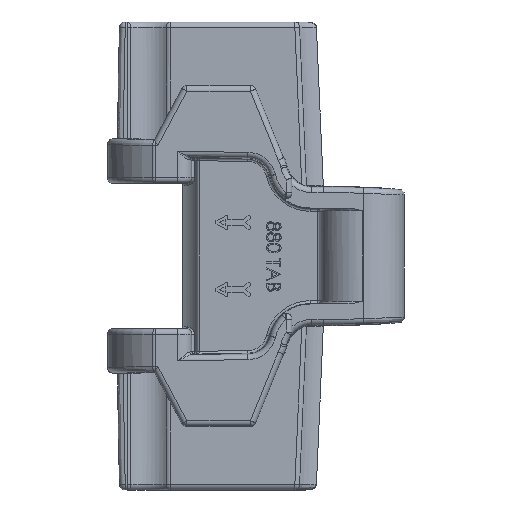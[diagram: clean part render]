
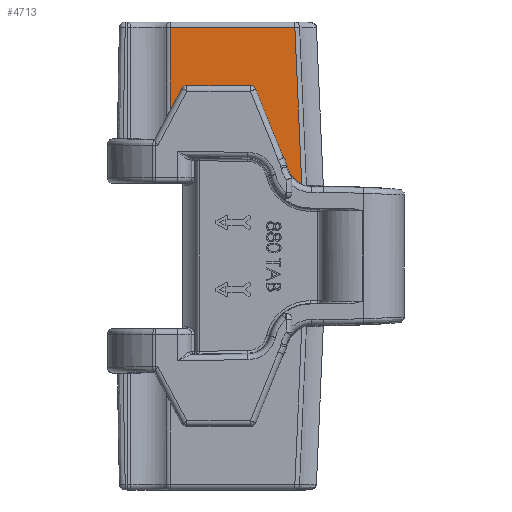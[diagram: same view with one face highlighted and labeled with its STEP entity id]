
A CAD part, front view. The second image highlights one B-rep face of the part: STEP entity #4713.
In plain terms, the highlighted planar face has unit normal (0, -1, 0).
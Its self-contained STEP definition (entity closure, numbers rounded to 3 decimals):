
#69 = CARTESIAN_POINT ( 'NONE',  ( -12.267, 3.4, 40.876 ) ) ;
#863 = VERTEX_POINT ( 'NONE', #8819 ) ;
#887 = ORIENTED_EDGE ( 'NONE', *, *, #8566, .F. ) ;
#1020 = CARTESIAN_POINT ( 'NONE',  ( -18.613, 3.4, 37.628 ) ) ;
#1027 = VERTEX_POINT ( 'NONE', #9303 ) ;
#1316 = EDGE_CURVE ( 'NONE', #863, #1027, #7761, .T. ) ;
#2173 = VERTEX_POINT ( 'NONE', #7226 ) ;
#2570 = VECTOR ( 'NONE', #10519, 1000. ) ;
#2763 = EDGE_CURVE ( 'NONE', #11217, #2173, #4846, .T. ) ;
#3523 = VECTOR ( 'NONE', #13413, 1000. ) ;
#3586 = EDGE_CURVE ( 'NONE', #16208, #16011, #10780, .T. ) ;
#4337 = EDGE_LOOP ( 'NONE', ( #13007, #9921, #15839, #887, #12365, #7055, #10659 ) ) ;
#4713 = ADVANCED_FACE ( 'NONE', ( #12367 ), #8072, .T. ) ;
#4846 = LINE ( 'NONE', #6102, #11545 ) ;
#4947 = CARTESIAN_POINT ( 'NONE',  ( 0., 3.4, 40.9 ) ) ;
#5372 = EDGE_CURVE ( 'NONE', #16011, #11380, #11955, .T. ) ;
#6102 = CARTESIAN_POINT ( 'NONE',  ( -0.297, 3.4, 20.393 ) ) ;
#6138 = AXIS2_PLACEMENT_3D ( 'NONE', #9535, #9452, #17623 ) ;
#6314 = CARTESIAN_POINT ( 'NONE',  ( -34.595, 3.4, 40.9 ) ) ;
#6460 = CIRCLE ( 'NONE', #10467, 4.5 ) ;
#6465 = DIRECTION ( 'NONE',  ( -1., 0., 0.014 ) ) ;
#6800 = AXIS2_PLACEMENT_3D ( 'NONE', #13538, #17506, #15064 ) ;
#7055 = ORIENTED_EDGE ( 'NONE', *, *, #17618, .F. ) ;
#7168 = CARTESIAN_POINT ( 'NONE',  ( -12.268, 3.4, 40.9 ) ) ;
#7226 = CARTESIAN_POINT ( 'NONE',  ( -34.595, 3.4, 20.867 ) ) ;
#7761 = LINE ( 'NONE', #1020, #3523 ) ;
#8072 = PLANE ( 'NONE',  #6800 ) ;
#8319 = CARTESIAN_POINT ( 'NONE',  ( -19.1, 3.4, 20.653 ) ) ;
#8453 = EDGE_CURVE ( 'NONE', #11380, #2173, #10262, .T. ) ;
#8566 = EDGE_CURVE ( 'NONE', #1027, #11217, #15035, .T. ) ;
#8800 = DIRECTION ( 'NONE',  ( 0., 1., 0. ) ) ;
#8819 = CARTESIAN_POINT ( 'NONE',  ( -13.636, 3.4, 15.943 ) ) ;
#9303 = CARTESIAN_POINT ( 'NONE',  ( -13.719, 3.4, 16.306 ) ) ;
#9427 = DIRECTION ( 'NONE',  ( -0.044, 0., 0.999 ) ) ;
#9452 = DIRECTION ( 'NONE',  ( 0., -1., 0. ) ) ;
#9535 = CARTESIAN_POINT ( 'NONE',  ( -19.177, 3.4, 15.054 ) ) ;
#9866 = VECTOR ( 'NONE', #11692, 1000. ) ;
#9921 = ORIENTED_EDGE ( 'NONE', *, *, #8453, .T. ) ;
#10262 = LINE ( 'NONE', #12958, #9866 ) ;
#10467 = AXIS2_PLACEMENT_3D ( 'NONE', #16972, #8800, #12916 ) ;
#10519 = DIRECTION ( 'NONE',  ( -1., 0., 0. ) ) ;
#10659 = ORIENTED_EDGE ( 'NONE', *, *, #3586, .T. ) ;
#10780 = LINE ( 'NONE', #69, #15506 ) ;
#11217 = VERTEX_POINT ( 'NONE', #8319 ) ;
#11380 = VERTEX_POINT ( 'NONE', #6314 ) ;
#11545 = VECTOR ( 'NONE', #6465, 1000. ) ;
#11692 = DIRECTION ( 'NONE',  ( 0., 0., -1. ) ) ;
#11955 = LINE ( 'NONE', #4947, #2570 ) ;
#12365 = ORIENTED_EDGE ( 'NONE', *, *, #1316, .F. ) ;
#12367 = FACE_OUTER_BOUND ( 'NONE', #4337, .T. ) ;
#12916 = DIRECTION ( 'NONE',  ( 1., 0., 0. ) ) ;
#12958 = CARTESIAN_POINT ( 'NONE',  ( -34.595, 3.4, 20.873 ) ) ;
#13007 = ORIENTED_EDGE ( 'NONE', *, *, #5372, .T. ) ;
#13413 = DIRECTION ( 'NONE',  ( -0.224, 0., 0.975 ) ) ;
#13538 = CARTESIAN_POINT ( 'NONE',  ( 0., 3.4, 41.9 ) ) ;
#15035 = CIRCLE ( 'NONE', #6138, 5.6 ) ;
#15064 = DIRECTION ( 'NONE',  ( 1., 0., 0. ) ) ;
#15506 = VECTOR ( 'NONE', #9427, 1000. ) ;
#15839 = ORIENTED_EDGE ( 'NONE', *, *, #2763, .F. ) ;
#16011 = VERTEX_POINT ( 'NONE', #7168 ) ;
#16208 = VERTEX_POINT ( 'NONE', #16630 ) ;
#16630 = CARTESIAN_POINT ( 'NONE',  ( -11.042, 3.4, 12.822 ) ) ;
#16972 = CARTESIAN_POINT ( 'NONE',  ( -9.25, 3.4, 16.95 ) ) ;
#17506 = DIRECTION ( 'NONE',  ( 0., -1., 0. ) ) ;
#17618 = EDGE_CURVE ( 'NONE', #16208, #863, #6460, .T. ) ;
#17623 = DIRECTION ( 'NONE',  ( 1., 0., 0. ) ) ;
